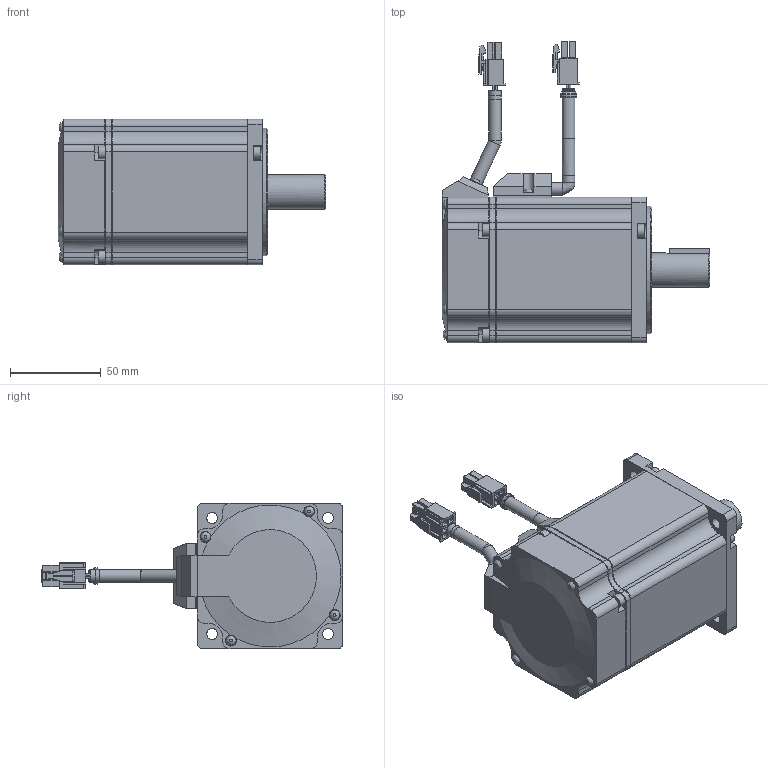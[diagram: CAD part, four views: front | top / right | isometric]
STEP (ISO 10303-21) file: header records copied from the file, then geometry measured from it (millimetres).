
FILE_DESCRIPTION( ( 'STEP AP203' ), '1' );
FILE_NAME( '//expscmdclustefs.cadenas.external/client_exchange/iodir/jobs/output/wkb71153897_no0/STEP/_MSMD082P1SA_2_03.stp', ' ', ( ' ' ), ( ' ' ), 'PSStep 15.0.47', 'PARTsolutions', ' ' );
FILE_SCHEMA( ( 'CONFIG_CONTROL_DESIGN' ) );
Length unit declared in the file: millimetre
Products named in the file (8):  MSMD082P1SA; HI_Motor--08-APBB; HI_Motoplug--08A; HI_Cabel Motoplug--08P; HI_Motor Connector; HI_Encoder--08P; HI_Cabel  brake--08-P-6; HI_2500 p/r Connector
Assembly tree (7 placements, depth 2):
   MSMD082P1SA
    HI_Motor--08-APBB
    HI_Motoplug--08A
    HI_Cabel Motoplug--08P
    HI_Motor Connector
    HI_Encoder--08P
    HI_Cabel  brake--08-P-6
    HI_2500 p/r Connector
Bounding box: 147.2 x 165.8 x 80 mm (x, y, z)
Volume: 673533.2 mm3; surface area: 68219.8 mm2
Topology: 7 solids, 7 shells, 705 faces, 1806 edges, 1181 vertices
Faces by surface type: plane 502, cylinder 172, cone 17, bspline 8, torus 6
Full cylindrical faces by diameter (mm): 1 x8, 1.82 x4, 2.459 x1, 2.6 x10, 4.134 x1, 4.5 x4, 6 x8, 7 x15, 7.2 x1, 9 x1, 19 x1, 19.5 x1, 22.5 x1, 38.5 x1, 70 x1
Entity records: 21196 total; most frequent: CARTESIAN_POINT 3968, DIRECTION 3481, ORIENTED_EDGE 3402, EDGE_CURVE 1701, LINE 1289, VECTOR 1289, VERTEX_POINT 1163, AXIS2_PLACEMENT_3D 1096
